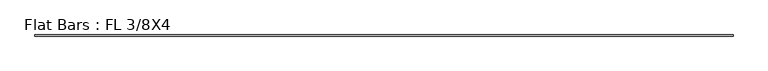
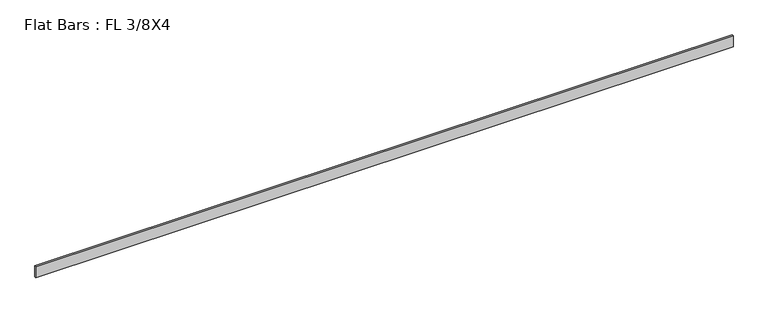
"""IFC4 building model written with IfcOpenShell, lengths in millimetres: member geometry, Flat Bars : FL 3/8X4."""

from ifc_helpers import new_model, si_unit, frame, origin, place, context, project, spatial, polyline, outline, extrude, source, transform, mapped, element, save


def flat_bars_fl_3_8x4_80db56d9(model_context):
    return source(origin(), model_context, "Body", "SweptSolid", [
        extrude(outline(polyline([(-3147.7730219, -4.7625), (-3147.7730219, 4.7625), (2894.2044526, 4.7625), (2894.2044526, -4.7625), (-3147.7730219, -4.7625)])), frame((0.0, 0.0, -50.8), z_axis=(0.0, 0.0, 1.0), x_axis=(1.0, 0.0, 0.0)), (0.0, 0.0, 1.0), 101.6),
    ])


if __name__ == "__main__":
    model = new_model("IFC4")
    model_context = context("Model", 3, world=origin())
    ifc_project = project(units=[si_unit("LENGTHUNIT", "METRE", prefix="MILLI")], contexts=[model_context])
    site = spatial("IfcSite", under=ifc_project)
    building = spatial("IfcBuilding", under=site)
    placement = place(None, origin())
    flat_bars_fl_3_8x4_shape = flat_bars_fl_3_8x4_80db56d9(model_context)
    element("IfcMember", 1, ObjectType="Flat Bars : FL 3/8X4", at=placement, inside=building, context=model_context, shape_type="MappedRepresentation", body=[
        mapped(flat_bars_fl_3_8x4_shape, transform((0.0, 0.0, 0.0), x_axis=(1.0, 0.0, 0.0), y_axis=(0.0, 1.0, 0.0), z_axis=(0.0, 0.0, 1.0))),
    ])
    save(model, "model.ifc")
